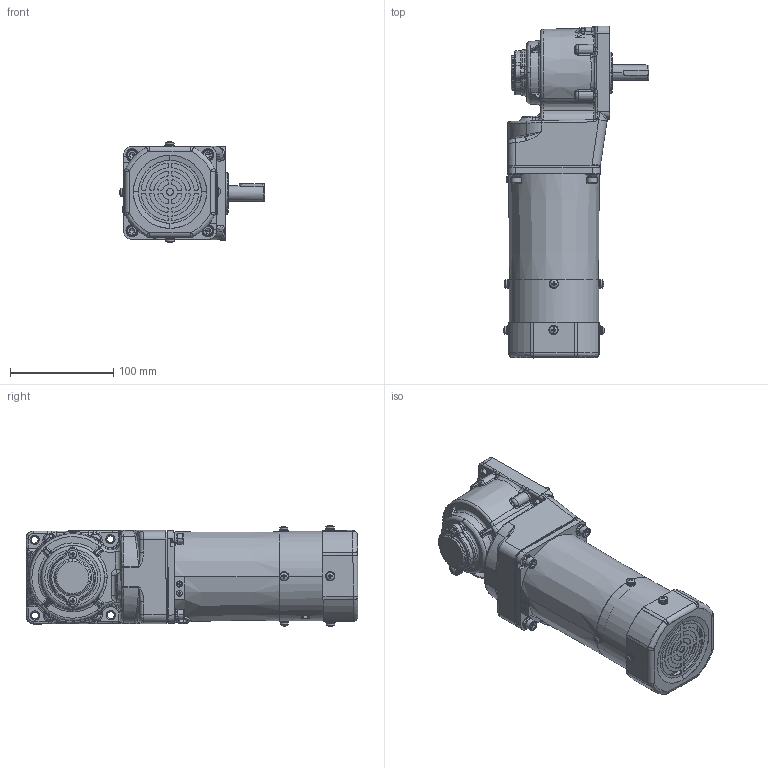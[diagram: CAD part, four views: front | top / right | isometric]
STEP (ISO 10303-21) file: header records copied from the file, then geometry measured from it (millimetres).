
FILE_DESCRIPTION (( 'STEP AP203' ), '1' );
FILE_NAME ('5RK90GU-CMF(5GU3RT-180RT)ÐÂ.STEP', '2022-02-24T03:29:04', ( 'PC' ), ( 'Microsoft' ), 'SwSTEP 2.0', 'SolidWorks 2014', '' );
FILE_SCHEMA (( 'CONFIG_CONTROL_DESIGN' ));
Length unit declared in the file: millimetre
Products named in the file (9): hexagon socket head cap screws gb_GB_FASTENER_SCREWS_HSHCS M5X12-N; cross recessed pan head screws gb_GB_CROSS_SCREWS_TYPE1 M4X6-6  H type-N; 5RK90GU-CMF(5GU3RT-180RT)陔; 90RT妗陑怀堤傷裔; 90壔裔; 5RK90GU-CMF(5GU3RC-180RC); 90妗陑怀堤粣; ZD-5GU50RC-505-003綴傷裔; zd-5gu-50rc-504-001m#眊极禱矗 2021-12-07 - 萵掛
Assembly tree (12 placements, depth 2):
  5RK90GU-CMF(5GU3RT-180RT)陔
    zd-5gu-50rc-504-001m#眊极禱矗 2021-12-07 - 萵掛
    90妗陑怀堤粣
    90壔裔
    ZD-5GU50RC-505-003綴傷裔
    90RT妗陑怀堤傷裔
    hexagon socket head cap screws gb_GB_FASTENER_SCREWS_HSHCS M5X12-N  x4
    cross recessed pan head screws gb_GB_CROSS_SCREWS_TYPE1 M4X6-6  H type-N  x2
    5RK90GU-CMF(5GU3RC-180RC)
Bounding box: 141.25 x 321.96 x 98.12 mm (x, y, z)
Volume: 1635249.3 mm3; surface area: 251905.1 mm2
Topology: 58 solids, 58 shells, 2424 faces, 5980 edges, 3634 vertices
Faces by surface type: plane 772, cylinder 651, bspline 491, cone 411, torus 93, sphere 6
Entity records: 95689 total; most frequent: CARTESIAN_POINT 43488, ORIENTED_EDGE 11272, DIRECTION 9948, EDGE_CURVE 5636, AXIS2_PLACEMENT_3D 3942, VERTEX_POINT 3494, EDGE_LOOP 2500, ADVANCED_FACE 2325
